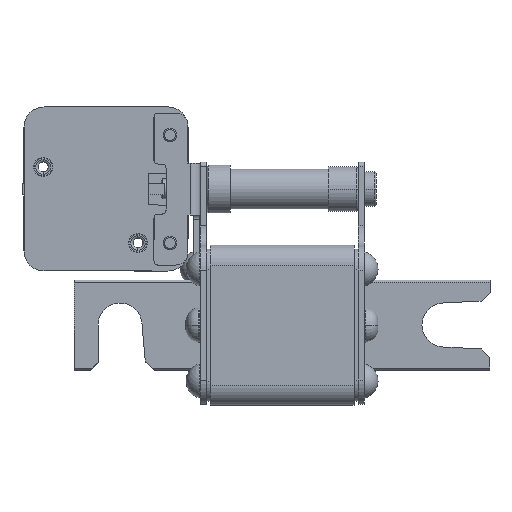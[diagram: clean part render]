
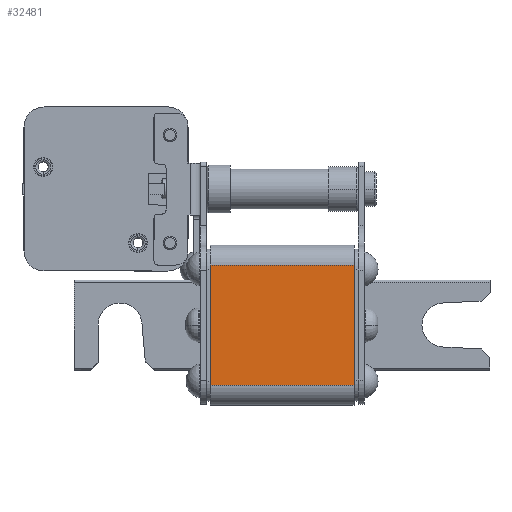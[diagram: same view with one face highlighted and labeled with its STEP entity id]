
A CAD part, left-side view. The second image highlights one B-rep face of the part: STEP entity #32481.
In plain terms, the highlighted planar face has unit normal (-1, 0, 0).
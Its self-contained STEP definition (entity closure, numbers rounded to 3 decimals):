
#598 = DIRECTION ( 'NONE',  ( 1., 0., 0. ) ) ;
#797 = ORIENTED_EDGE ( 'NONE', *, *, #19016, .T. ) ;
#1222 = EDGE_CURVE ( 'NONE', #28095, #12431, #29010, .T. ) ;
#2736 = CARTESIAN_POINT ( 'NONE',  ( -20., 18., 15. ) ) ;
#2955 = LINE ( 'NONE', #14008, #36129 ) ;
#3642 = LINE ( 'NONE', #35242, #26511 ) ;
#7375 = CARTESIAN_POINT ( 'NONE',  ( -20., -18., -15. ) ) ;
#10049 = CARTESIAN_POINT ( 'NONE',  ( -20., 18., -15. ) ) ;
#10510 = ORIENTED_EDGE ( 'NONE', *, *, #1222, .T. ) ;
#12431 = VERTEX_POINT ( 'NONE', #36991 ) ;
#13796 = VERTEX_POINT ( 'NONE', #2736 ) ;
#14008 = CARTESIAN_POINT ( 'NONE',  ( -20., 18., -15. ) ) ;
#18691 = EDGE_CURVE ( 'NONE', #13796, #12431, #25167, .T. ) ;
#19016 = EDGE_CURVE ( 'NONE', #24039, #28095, #3642, .T. ) ;
#19442 = DIRECTION ( 'NONE',  ( 0., 0., -1. ) ) ;
#20219 = EDGE_CURVE ( 'NONE', #24039, #13796, #2955, .T. ) ;
#22321 = FACE_OUTER_BOUND ( 'NONE', #24070, .T. ) ;
#22619 = ORIENTED_EDGE ( 'NONE', *, *, #18691, .F. ) ;
#24039 = VERTEX_POINT ( 'NONE', #38992 ) ;
#24070 = EDGE_LOOP ( 'NONE', ( #10510, #22619, #35450, #797 ) ) ;
#24104 = VECTOR ( 'NONE', #26571, 1000. ) ;
#25136 = PLANE ( 'NONE',  #38646 ) ;
#25167 = LINE ( 'NONE', #39080, #38365 ) ;
#26082 = DIRECTION ( 'NONE',  ( 0., 0., 1. ) ) ;
#26511 = VECTOR ( 'NONE', #38379, 1000. ) ;
#26571 = DIRECTION ( 'NONE',  ( 0., 0., 1. ) ) ;
#26618 = DIRECTION ( 'NONE',  ( 0., -1., 0. ) ) ;
#28095 = VERTEX_POINT ( 'NONE', #34115 ) ;
#29010 = LINE ( 'NONE', #7375, #24104 ) ;
#32481 = ADVANCED_FACE ( 'NONE', ( #22321 ), #25136, .F. ) ;
#34115 = CARTESIAN_POINT ( 'NONE',  ( -20., -18., -15. ) ) ;
#35242 = CARTESIAN_POINT ( 'NONE',  ( -20., 18., -15. ) ) ;
#35450 = ORIENTED_EDGE ( 'NONE', *, *, #20219, .F. ) ;
#36129 = VECTOR ( 'NONE', #26082, 1000. ) ;
#36991 = CARTESIAN_POINT ( 'NONE',  ( -20., -18., 15. ) ) ;
#38365 = VECTOR ( 'NONE', #26618, 1000. ) ;
#38379 = DIRECTION ( 'NONE',  ( 0., -1., 0. ) ) ;
#38646 = AXIS2_PLACEMENT_3D ( 'NONE', #10049, #598, #19442 ) ;
#38992 = CARTESIAN_POINT ( 'NONE',  ( -20., 18., -15. ) ) ;
#39080 = CARTESIAN_POINT ( 'NONE',  ( -20., 18., 15. ) ) ;
